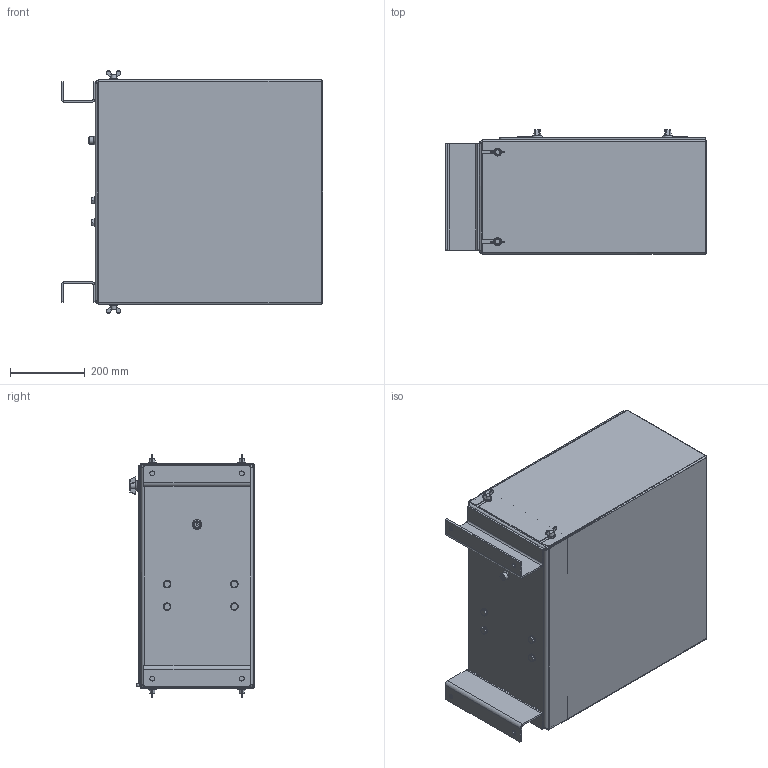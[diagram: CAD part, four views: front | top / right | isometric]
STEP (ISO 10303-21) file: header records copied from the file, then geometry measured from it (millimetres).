
FILE_DESCRIPTION(/* description */ (''),/* implementation_level */ '2;1');
FILE_NAME(/* name */ 'C:\Users\nemgal01\Desktop\STEP\75753.stp',/* time_stamp */ '2017-03-09T11:56:35+01:00',/* author */ ('nemgal01'),/* organization */ ('Hillmar Industries Ltd.'),/* preprocessor_version */ 'ST-DEVELOPER v16.1',/* originating_system */ 'Autodesk Inventor 2016',/* authorisation */ '');
FILE_SCHEMA (('AUTOMOTIVE_DESIGN { 1 0 10303 214 3 1 1 }'));
Length unit declared in the file: millimetre
Products named in the file (1): Assembly5_Shrinkwrap_1
Bounding box: 700 x 333.19 x 649.96 mm (x, y, z)
Volume: 5337694 mm3; surface area: 3309028.4 mm2
Topology: 1 solids, 1 shells, 703 faces, 1732 edges, 1038 vertices
Faces by surface type: plane 346, cylinder 168, cone 77, bspline 60, torus 32, sphere 20
Full cylindrical faces by diameter (mm): 5.5 x2, 8 x8, 9.8 x2, 10 x6, 13 x4, 15.6 x4, 18 x2, 20 x5, 21 x4, 22 x4, 30 x2
Entity records: 22566 total; most frequent: CARTESIAN_POINT 6484, DIRECTION 3156, ORIENTED_EDGE 3140, EDGE_CURVE 1568, AXIS2_PLACEMENT_3D 1204, VERTEX_POINT 982, EDGE_LOOP 842, LINE 748
